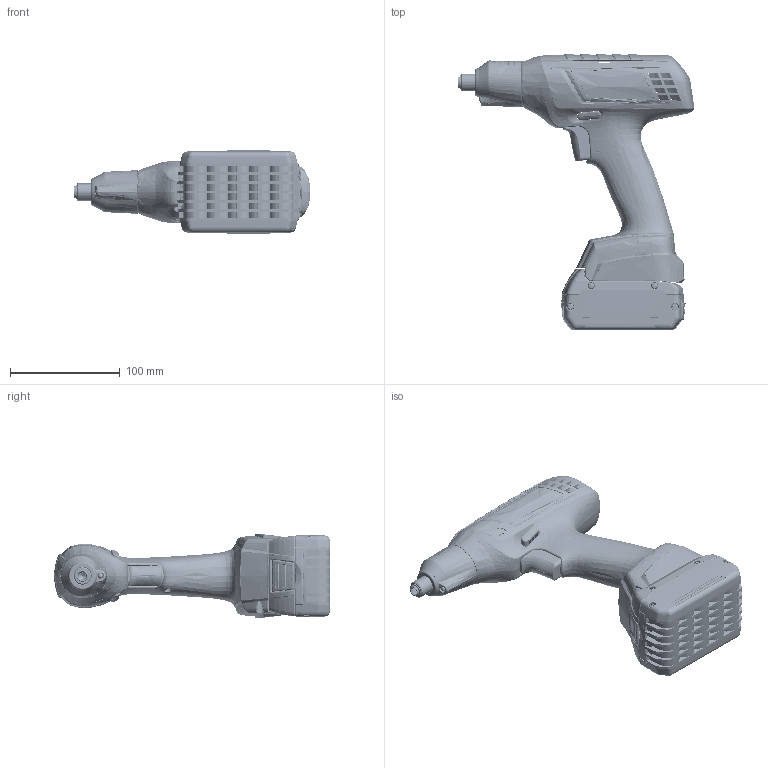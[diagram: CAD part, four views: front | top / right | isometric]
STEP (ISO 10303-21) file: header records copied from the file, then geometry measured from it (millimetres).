
FILE_DESCRIPTION((''),'2;1');
FILE_NAME('3602D94400_ASM','2013-06-20T',('lem2mt'),(''),'PRO/ENGINEER BY PARAMETRIC TECHNOLOGY CORPORATION, 2011490','PRO/ENGINEER BY PARAMETRIC TECHNOLOGY CORPORATION, 2011490','');
FILE_SCHEMA(('AUTOMOTIVE_DESIGN_CC2 { 1 2 10303 214 -1 1 5 2 }'));
Products named in the file (32): 3602D94400_SKEL01; 3605105046_100; 3605105046_200; 3602D94400_10_ASM; 2607336133_DUMMY; 3602D94400_70_ASM; 3604460132; 3603124023-1; 3600224006; 3600499003; 3607031535_ASM; 3602D94400_80_24; 3602D94400_80_25; 3602D94400_80_28; 3602D94400_80_26; 3602D94400_80_23_ASM; 3602D94400_80_ASM; 1607502625_SKEL0001; 1607502625_01; 1607502625_02; 1607502625_ASM; 3602D94400_90_ASM; 3602D94400_80_40; 3602D94400_80_29_ASM; 1607502627_SKEL0001; 1607502627_ASM; 1607502626_DUMMY; 3601099004; 3601923030; 3600106006; 2603490018_DUMMY_01; 3602D94400_ASM
Assembly tree (41 placements, depth 4):
  3602D94400_ASM
    3602D94400_SKEL01
    3602D94400_10_ASM
      3605105046_100
      3605105046_200
    3602D94400_70_ASM
      2607336133_DUMMY
    3604460132  x2
    3607031535_ASM
      3603124023-1
      3600224006
      3600499003
    3602D94400_80_ASM
      3602D94400_80_23_ASM
        3602D94400_80_24
        3602D94400_80_25
        3602D94400_80_28
        3602D94400_80_26  x2
    3602D94400_90_ASM
      1607502625_ASM
        1607502625_SKEL0001
        1607502625_01
        1607502625_02
    3602D94400_80_29_ASM
      3602D94400_80_40
    1607502627_ASM
      1607502627_SKEL0001
    1607502626_DUMMY
    3601099004
    3601923030
    3600106006
    2603490018_DUMMY_01  x9
Bounding box: 216.24 x 252.35 x 77.21 mm (x, y, z)
Volume: 355902.4 mm3; surface area: 323989.9 mm2
Topology: 30 solids, 35 shells, 15904 faces, 41600 edges, 25755 vertices
Faces by surface type: plane 5800, bspline 4666, cylinder 3574, cone 788, sphere 512, torus 371, extrusion 193
Entity records: 1107472 total; most frequent: CARTESIAN_POINT 619993, ORIENTED_EDGE 80476, DIRECTION 54383, EDGE_CURVE 40238, PRESENTATION_STYLE_ASSIGNMENT 32108, STYLED_ITEM 26667, VERTEX_POINT 24960, CURVE_STYLE 18713
